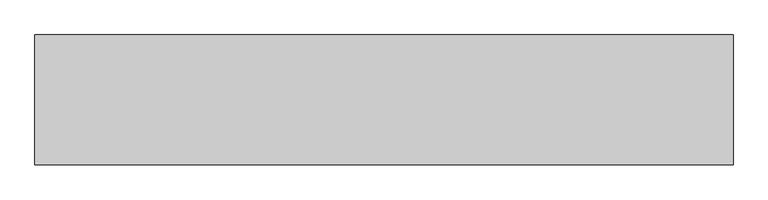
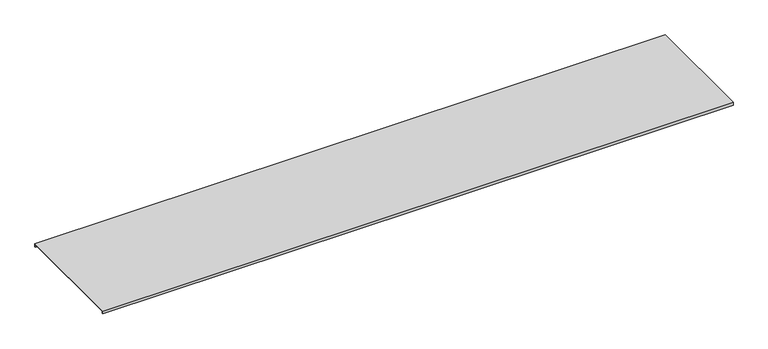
"""IFC4 building model written with IfcOpenShell, lengths in millimetres: cable carrier fitting geometry, ССT_Hyperline_FBTR-CVR-2000 Крышка для оптического лотка : Крышка для оптического лотка."""

from ifc_helpers import new_model, si_unit, frame, origin, place, context, project, spatial, polyline, outline, extrude, source, transform, mapped, element, save


def cable_carrier_fitting_1a4309ed(model_context):
    return source(origin(), model_context, "Body", "SweptSolid", [
        extrude(outline(polyline([(180.0, 50.0), (-180.0, 50.0), (-180.0, 43.0), (-182.54, 43.0), (-182.54, 52.54), (182.54, 52.54), (182.54, 43.0), (180.0, 43.0), (180.0, 50.0)])), frame((-1780.0, 0.0, 0.0), z_axis=(1.0, 0.0, 0.0), x_axis=(0.0, 1.0, 0.0)), (0.0, 0.0, 1.0), 1960.0),
    ])


if __name__ == "__main__":
    model = new_model("IFC4")
    model_context = context("Model", 3, world=origin())
    ifc_project = project(units=[si_unit("LENGTHUNIT", "METRE", prefix="MILLI")], contexts=[model_context])
    site = spatial("IfcSite", under=ifc_project)
    building = spatial("IfcBuilding", under=site)
    placement = place(None, origin())
    cable_carrier_fitting_shape = cable_carrier_fitting_1a4309ed(model_context)
    element("IfcCableCarrierFitting", 1, ObjectType="ССT_Hyperline_FBTR-CVR-2000 Крышка для оптического лотка : Крышка для оптического лотка", at=placement, inside=building, context=model_context, shape_type="MappedRepresentation", body=[
        mapped(cable_carrier_fitting_shape, transform((0.0, 0.0, 0.0), x_axis=(1.0, 0.0, 0.0), y_axis=(0.0, 1.0, 0.0), z_axis=(0.0, 0.0, 1.0))),
    ])
    save(model, "model.ifc")
